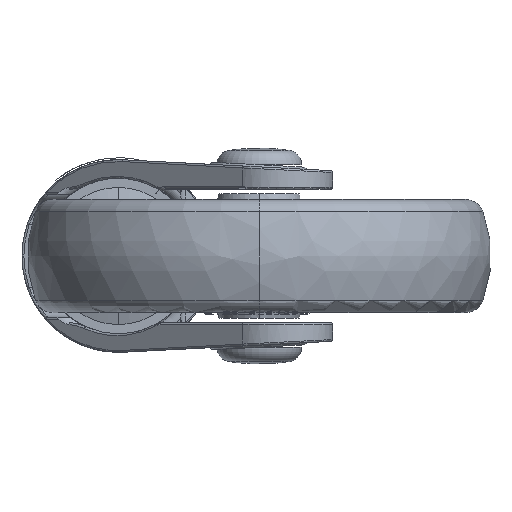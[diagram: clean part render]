
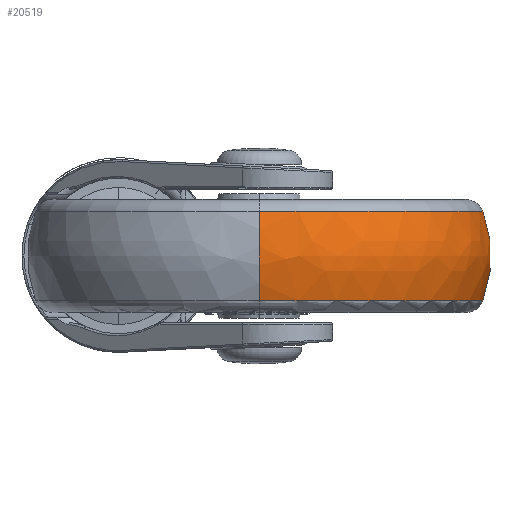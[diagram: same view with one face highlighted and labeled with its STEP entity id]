
A CAD part, front view. The second image highlights one B-rep face of the part: STEP entity #20519.
In plain terms, the highlighted free-form (B-spline) face has degree [3, 3] with [7, 4] control points.
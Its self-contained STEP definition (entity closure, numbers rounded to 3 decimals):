
#15256=CARTESIAN_POINT('',(38.,-88.,-12.017));
#15257=DIRECTION('',(0.,0.,-1.));
#15258=DIRECTION('',(0.,1.,0.));
#15259=AXIS2_PLACEMENT_3D('',#15256,#15257,#15258);
#15261=CARTESIAN_POINT('',(38.,-116.5,0.));
#15262=DIRECTION('',(1.,0.,0.));
#15263=DIRECTION('',(0.,-0.935,0.353));
#15264=AXIS2_PLACEMENT_3D('',#15261,#15262,#15263);
#15266=CARTESIAN_POINT('',(38.,-88.,12.017));
#15267=DIRECTION('',(0.,0.,-1.));
#15268=DIRECTION('',(0.,1.,0.));
#15269=AXIS2_PLACEMENT_3D('',#15266,#15267,#15268);
#15271=CARTESIAN_POINT('',(38.,-59.5,0.));
#15272=DIRECTION('',(-1.,0.,0.));
#15273=DIRECTION('',(0.,0.935,0.353));
#15274=AXIS2_PLACEMENT_3D('',#15271,#15272,#15273);
#19520=CARTESIAN_POINT('',(38.,-27.695,-12.017));
#19521=CARTESIAN_POINT('',(38.,-148.305,-12.017));
#19522=VERTEX_POINT('',#19520);
#19523=VERTEX_POINT('',#19521);
#19524=CARTESIAN_POINT('',(38.,-27.695,12.017));
#19525=CARTESIAN_POINT('',(38.,-148.305,12.017));
#19526=VERTEX_POINT('',#19524);
#19527=VERTEX_POINT('',#19525);
#20481=CARTESIAN_POINT('',(34.225,-148.01,
-12.476));
#20482=CARTESIAN_POINT('',(34.024,-151.204,
-4.361));
#20483=CARTESIAN_POINT('',(34.024,-151.204,
4.361));
#20484=CARTESIAN_POINT('',(34.225,-148.01,
12.476));
#20485=CARTESIAN_POINT('',(71.154,-150.333,
-12.476));
#20486=CARTESIAN_POINT('',(72.919,-153.651,
-4.361));
#20487=CARTESIAN_POINT('',(72.919,-153.651,
4.361));
#20488=CARTESIAN_POINT('',(71.154,-150.333,
12.476));
#20489=CARTESIAN_POINT('',(98.128,-125.003,
-12.476));
#20490=CARTESIAN_POINT('',(101.329,-126.973,
-4.361));
#20491=CARTESIAN_POINT('',(101.329,-126.973,
4.361));
#20492=CARTESIAN_POINT('',(98.128,-125.003,
12.476));
#20493=CARTESIAN_POINT('',(98.128,-88.,-12.476));
#20494=CARTESIAN_POINT('',(101.329,-88.,-4.361));
#20495=CARTESIAN_POINT('',(101.329,-88.,4.361));
#20496=CARTESIAN_POINT('',(98.128,-88.,12.476));
#20497=CARTESIAN_POINT('',(98.128,-50.997,
-12.476));
#20498=CARTESIAN_POINT('',(101.329,-49.027,
-4.361));
#20499=CARTESIAN_POINT('',(101.329,-49.027,
4.361));
#20500=CARTESIAN_POINT('',(98.128,-50.997,
12.476));
#20501=CARTESIAN_POINT('',(71.154,-25.667,
-12.476));
#20502=CARTESIAN_POINT('',(72.919,-22.349,
-4.361));
#20503=CARTESIAN_POINT('',(72.919,-22.349,
4.361));
#20504=CARTESIAN_POINT('',(71.154,-25.667,
12.476));
#20505=CARTESIAN_POINT('',(34.225,-27.99,
-12.476));
#20506=CARTESIAN_POINT('',(34.024,-24.796,
-4.361));
#20507=CARTESIAN_POINT('',(34.024,-24.796,
4.361));
#20508=CARTESIAN_POINT('',(34.225,-27.99,
12.476));
#20509=(BOUNDED_SURFACE()B_SPLINE_SURFACE(3,3,((#20481,#20482,#20483,#20484),(
#20485,#20486,#20487,#20488),(#20489,#20490,#20491,#20492),(#20493,#20494,
#20495,#20496),(#20497,#20498,#20499,#20500),(#20501,#20502,#20503,#20504),(
#20505,#20506,#20507,#20508)),.UNSPECIFIED.,.F.,.F.,.F.)B_SPLINE_SURFACE_WITH_KNOTS((4,3,4),(4,4),(0.,1.,2.),(0.,1.),.UNSPECIFIED.)GEOMETRIC_REPRESENTATION_ITEM()RATIONAL_B_SPLINE_SURFACE(((1.23,1.173,
1.173,1.23),(0.971,0.926,
0.926,0.971),(0.971,0.926,
0.926,0.971),(1.23,1.173,
1.173,1.23),(0.971,0.926,
0.926,0.971),(0.971,0.926,
0.926,0.971),(1.23,1.173,
1.173,1.23)))REPRESENTATION_ITEM('')SURFACE());
#20511=ORIENTED_EDGE('',*,*,#20510,.T.);
#20513=ORIENTED_EDGE('',*,*,#20512,.F.);
#20514=ORIENTED_EDGE('',*,*,#20464,.F.);
#20516=ORIENTED_EDGE('',*,*,#20515,.T.);
#20517=EDGE_LOOP('',(#20511,#20513,#20514,#20516));
#20518=FACE_OUTER_BOUND('',#20517,.F.);
#15260=CIRCLE('',#15259,60.305);
#15265=CIRCLE('',#15264,34.);
#15270=CIRCLE('',#15269,60.305);
#15275=CIRCLE('',#15274,34.);
#20464=EDGE_CURVE('',#19526,#19527,#15270,.T.);
#20510=EDGE_CURVE('',#19522,#19523,#15260,.T.);
#20512=EDGE_CURVE('',#19527,#19523,#15265,.T.);
#20515=EDGE_CURVE('',#19526,#19522,#15275,.T.);
#20519=ADVANCED_FACE('',(#20518),#20509,.T.);
